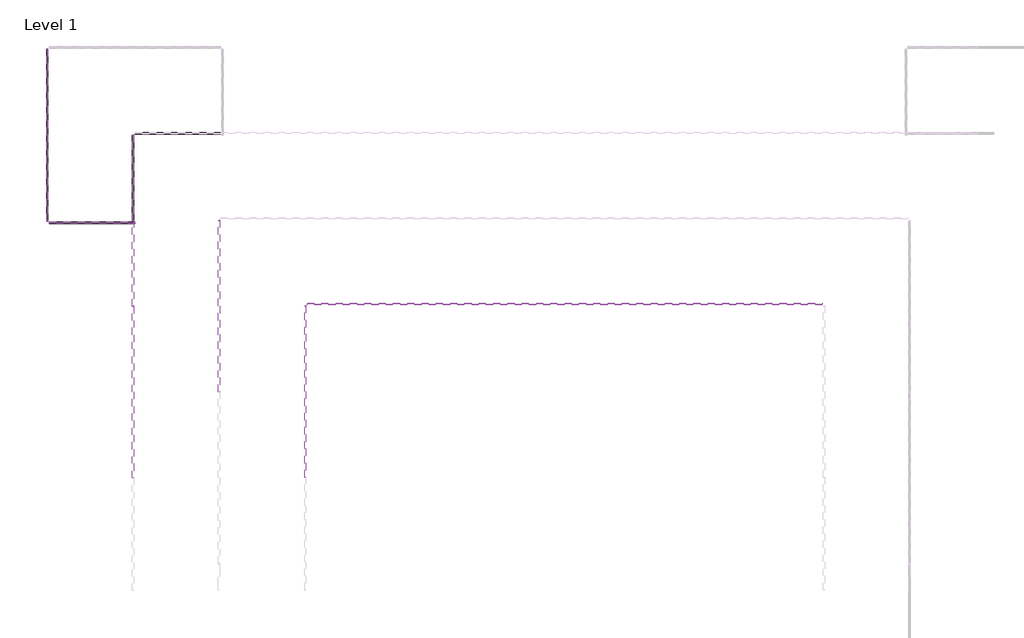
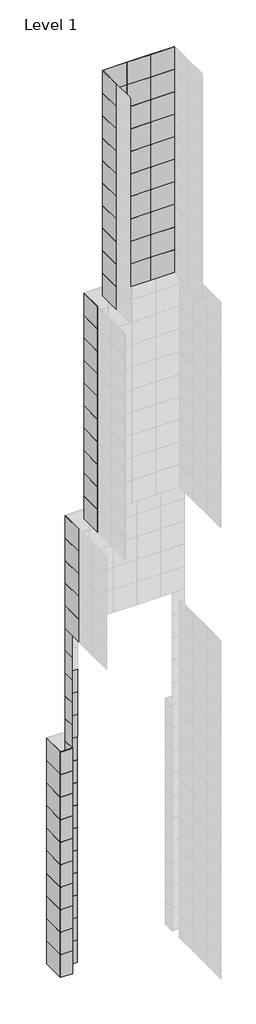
# One storey, part 12 of 15: 135 plates.
"""IFC4 building model written with IfcOpenShell, lengths in millimetres."""

from ifc_helpers import new_model, si_unit, origin, place, context, project, spatial, transform, mapped, element, save
from components import system_panel_glazed_9c75bc08, system_panel_glazed_0a0842ec, system_panel_glazed_aa64d645

model = new_model("IFC4")

# Units and contexts
model_context = context("Model", 3, world=origin())
ifc_project = project(units=[si_unit("LENGTHUNIT", "METRE", prefix="MILLI")], contexts=[model_context])

# Site, building, storey
site = spatial("IfcSite", under=ifc_project)
building = spatial("IfcBuilding", under=site)
storey = spatial("IfcBuildingStorey", under=building, Name="Level 1", Elevation=0.0)

# Plates
placement = place(None, origin())
system_panel_glazed_shape = system_panel_glazed_9c75bc08(model_context)
element("IfcPlate", 1, ObjectType="System Panel : Glazed", at=placement, inside=storey, context=model_context, shape_type="MappedRepresentation", body=[
    mapped(system_panel_glazed_shape, transform((36594.2903978, 9113.0904402, 0.0), x_axis=(0.0, -1.0, 0.0), y_axis=(1.0, 0.0, 0.0), z_axis=(0.0, 0.0, 1.0))),
])
element("IfcPlate", 2, ObjectType="System Panel : Glazed", at=placement, inside=storey, context=model_context, shape_type="MappedRepresentation", body=[
    mapped(system_panel_glazed_shape, transform((36594.2903978, 9113.0904402, 3048.0), x_axis=(0.0, -1.0, 0.0), y_axis=(1.0, 0.0, 0.0), z_axis=(0.0, 0.0, 1.0))),
])
element("IfcPlate", 3, ObjectType="System Panel : Glazed", at=placement, inside=storey, context=model_context, shape_type="MappedRepresentation", body=[
    mapped(system_panel_glazed_shape, transform((36594.2903978, 9113.0904402, 6096.0), x_axis=(0.0, -1.0, 0.0), y_axis=(1.0, 0.0, 0.0), z_axis=(0.0, 0.0, 1.0))),
])
element("IfcPlate", 4, ObjectType="System Panel : Glazed", at=placement, inside=storey, context=model_context, shape_type="MappedRepresentation", body=[
    mapped(system_panel_glazed_shape, transform((36594.2903978, 9113.0904402, 9144.0), x_axis=(0.0, -1.0, 0.0), y_axis=(1.0, 0.0, 0.0), z_axis=(0.0, 0.0, 1.0))),
])
element("IfcPlate", 5, ObjectType="System Panel : Glazed", at=placement, inside=storey, context=model_context, shape_type="MappedRepresentation", body=[
    mapped(system_panel_glazed_shape, transform((36594.2903978, 9113.0904402, 12192.0), x_axis=(0.0, -1.0, 0.0), y_axis=(1.0, 0.0, 0.0), z_axis=(0.0, 0.0, 1.0))),
])
element("IfcPlate", 6, ObjectType="System Panel : Glazed", at=placement, inside=storey, context=model_context, shape_type="MappedRepresentation", body=[
    mapped(system_panel_glazed_shape, transform((36594.2903978, 9113.0904402, 15240.0), x_axis=(0.0, -1.0, 0.0), y_axis=(1.0, 0.0, 0.0), z_axis=(0.0, 0.0, 1.0))),
])
element("IfcPlate", 7, ObjectType="System Panel : Glazed", at=placement, inside=storey, context=model_context, shape_type="MappedRepresentation", body=[
    mapped(system_panel_glazed_shape, transform((36594.2903978, 9113.0904402, 18288.0), x_axis=(0.0, -1.0, 0.0), y_axis=(1.0, 0.0, 0.0), z_axis=(0.0, 0.0, 1.0))),
])
element("IfcPlate", 8, ObjectType="System Panel : Glazed", at=placement, inside=storey, context=model_context, shape_type="MappedRepresentation", body=[
    mapped(system_panel_glazed_shape, transform((36594.2903978, 9113.0904402, 21336.0), x_axis=(0.0, -1.0, 0.0), y_axis=(1.0, 0.0, 0.0), z_axis=(0.0, 0.0, 1.0))),
])
element("IfcPlate", 9, ObjectType="System Panel : Glazed", at=placement, inside=storey, context=model_context, shape_type="MappedRepresentation", body=[
    mapped(system_panel_glazed_shape, transform((36594.2903978, 9113.0904402, 24384.0), x_axis=(0.0, -1.0, 0.0), y_axis=(1.0, 0.0, 0.0), z_axis=(0.0, 0.0, 1.0))),
])
element("IfcPlate", 10, ObjectType="System Panel : Glazed", at=placement, inside=storey, context=model_context, shape_type="MappedRepresentation", body=[
    mapped(system_panel_glazed_shape, transform((36594.2903978, 9113.0904402, 27432.0), x_axis=(0.0, -1.0, 0.0), y_axis=(1.0, 0.0, 0.0), z_axis=(0.0, 0.0, 1.0))),
])
element("IfcPlate", 11, ObjectType="System Panel : Glazed", at=placement, inside=storey, context=model_context, shape_type="MappedRepresentation", body=[
    mapped(system_panel_glazed_shape, transform((36594.2903978, 9113.0904402, 30480.0), x_axis=(0.0, -1.0, 0.0), y_axis=(1.0, 0.0, 0.0), z_axis=(0.0, 0.0, 1.0))),
])
element("IfcPlate", 12, ObjectType="System Panel : Glazed", at=placement, inside=storey, context=model_context, shape_type="MappedRepresentation", body=[
    mapped(system_panel_glazed_shape, transform((36594.2903978, 9113.0904402, 33528.0), x_axis=(0.0, -1.0, 0.0), y_axis=(1.0, 0.0, 0.0), z_axis=(0.0, 0.0, 1.0))),
])
element("IfcPlate", 13, ObjectType="System Panel : Glazed", at=placement, inside=storey, context=model_context, shape_type="MappedRepresentation", body=[
    mapped(system_panel_glazed_shape, transform((36594.2903978, 9113.0904402, 36576.0), x_axis=(0.0, -1.0, 0.0), y_axis=(1.0, 0.0, 0.0), z_axis=(0.0, 0.0, 1.0))),
])
element("IfcPlate", 14, ObjectType="System Panel : Glazed", at=placement, inside=storey, context=model_context, shape_type="MappedRepresentation", body=[
    mapped(system_panel_glazed_shape, transform((36594.2903978, 9113.0904402, 39624.0), x_axis=(0.0, -1.0, 0.0), y_axis=(1.0, 0.0, 0.0), z_axis=(0.0, 0.0, 1.0))),
])
element("IfcPlate", 15, ObjectType="System Panel : Glazed", at=placement, inside=storey, context=model_context, shape_type="MappedRepresentation", body=[
    mapped(system_panel_glazed_shape, transform((36594.2903978, 9113.0904402, 42672.0), x_axis=(0.0, -1.0, 0.0), y_axis=(1.0, 0.0, 0.0), z_axis=(0.0, 0.0, 1.0))),
])
element("IfcPlate", 16, ObjectType="System Panel : Glazed", at=placement, inside=storey, context=model_context, shape_type="MappedRepresentation", body=[
    mapped(system_panel_glazed_shape, transform((37356.2903978, 9875.0904402, 0.0), x_axis=(-1.0, 0.0, 0.0), y_axis=(0.0, -1.0, 0.0), z_axis=(0.0, 0.0, 1.0))),
])
element("IfcPlate", 17, ObjectType="System Panel : Glazed", at=placement, inside=storey, context=model_context, shape_type="MappedRepresentation", body=[
    mapped(system_panel_glazed_shape, transform((37356.2903978, 9875.0904402, 3048.0), x_axis=(-1.0, 0.0, 0.0), y_axis=(0.0, -1.0, 0.0), z_axis=(0.0, 0.0, 1.0))),
])
element("IfcPlate", 18, ObjectType="System Panel : Glazed", at=placement, inside=storey, context=model_context, shape_type="MappedRepresentation", body=[
    mapped(system_panel_glazed_shape, transform((37356.2903978, 9875.0904402, 6096.0), x_axis=(-1.0, 0.0, 0.0), y_axis=(0.0, -1.0, 0.0), z_axis=(0.0, 0.0, 1.0))),
])
element("IfcPlate", 19, ObjectType="System Panel : Glazed", at=placement, inside=storey, context=model_context, shape_type="MappedRepresentation", body=[
    mapped(system_panel_glazed_shape, transform((37356.2903978, 9875.0904402, 9144.0), x_axis=(-1.0, 0.0, 0.0), y_axis=(0.0, -1.0, 0.0), z_axis=(0.0, 0.0, 1.0))),
])
element("IfcPlate", 20, ObjectType="System Panel : Glazed", at=placement, inside=storey, context=model_context, shape_type="MappedRepresentation", body=[
    mapped(system_panel_glazed_shape, transform((37356.2903978, 9875.0904402, 12192.0), x_axis=(-1.0, 0.0, 0.0), y_axis=(0.0, -1.0, 0.0), z_axis=(0.0, 0.0, 1.0))),
])
element("IfcPlate", 21, ObjectType="System Panel : Glazed", at=placement, inside=storey, context=model_context, shape_type="MappedRepresentation", body=[
    mapped(system_panel_glazed_shape, transform((37356.2903978, 9875.0904402, 15240.0), x_axis=(-1.0, 0.0, 0.0), y_axis=(0.0, -1.0, 0.0), z_axis=(0.0, 0.0, 1.0))),
])
element("IfcPlate", 22, ObjectType="System Panel : Glazed", at=placement, inside=storey, context=model_context, shape_type="MappedRepresentation", body=[
    mapped(system_panel_glazed_shape, transform((37356.2903978, 9875.0904402, 18288.0), x_axis=(-1.0, 0.0, 0.0), y_axis=(0.0, -1.0, 0.0), z_axis=(0.0, 0.0, 1.0))),
])
element("IfcPlate", 23, ObjectType="System Panel : Glazed", at=placement, inside=storey, context=model_context, shape_type="MappedRepresentation", body=[
    mapped(system_panel_glazed_shape, transform((37356.2903978, 9875.0904402, 21336.0), x_axis=(-1.0, 0.0, 0.0), y_axis=(0.0, -1.0, 0.0), z_axis=(0.0, 0.0, 1.0))),
])
element("IfcPlate", 24, ObjectType="System Panel : Glazed", at=placement, inside=storey, context=model_context, shape_type="MappedRepresentation", body=[
    mapped(system_panel_glazed_shape, transform((37356.2903978, 9875.0904402, 24384.0), x_axis=(-1.0, 0.0, 0.0), y_axis=(0.0, -1.0, 0.0), z_axis=(0.0, 0.0, 1.0))),
])
element("IfcPlate", 25, ObjectType="System Panel : Glazed", at=placement, inside=storey, context=model_context, shape_type="MappedRepresentation", body=[
    mapped(system_panel_glazed_shape, transform((37356.2903978, 9875.0904402, 27432.0), x_axis=(-1.0, 0.0, 0.0), y_axis=(0.0, -1.0, 0.0), z_axis=(0.0, 0.0, 1.0))),
])
element("IfcPlate", 26, ObjectType="System Panel : Glazed", at=placement, inside=storey, context=model_context, shape_type="MappedRepresentation", body=[
    mapped(system_panel_glazed_shape, transform((37356.2903978, 9875.0904402, 30480.0), x_axis=(-1.0, 0.0, 0.0), y_axis=(0.0, -1.0, 0.0), z_axis=(0.0, 0.0, 1.0))),
])
element("IfcPlate", 27, ObjectType="System Panel : Glazed", at=placement, inside=storey, context=model_context, shape_type="MappedRepresentation", body=[
    mapped(system_panel_glazed_shape, transform((37356.2903978, 9875.0904402, 33528.0), x_axis=(-1.0, 0.0, 0.0), y_axis=(0.0, -1.0, 0.0), z_axis=(0.0, 0.0, 1.0))),
])
element("IfcPlate", 28, ObjectType="System Panel : Glazed", at=placement, inside=storey, context=model_context, shape_type="MappedRepresentation", body=[
    mapped(system_panel_glazed_shape, transform((37356.2903978, 9875.0904402, 36576.0), x_axis=(-1.0, 0.0, 0.0), y_axis=(0.0, -1.0, 0.0), z_axis=(0.0, 0.0, 1.0))),
])
element("IfcPlate", 29, ObjectType="System Panel : Glazed", at=placement, inside=storey, context=model_context, shape_type="MappedRepresentation", body=[
    mapped(system_panel_glazed_shape, transform((36594.2903978, 9113.0904402, 0.0), x_axis=(0.0, -1.0, 0.0), y_axis=(1.0, 0.0, 0.0), z_axis=(0.0, 0.0, 1.0))),
])
element("IfcPlate", 30, ObjectType="System Panel : Glazed", at=placement, inside=storey, context=model_context, shape_type="MappedRepresentation", body=[
    mapped(system_panel_glazed_shape, transform((36594.2903978, 9113.0904402, 3048.0), x_axis=(0.0, -1.0, 0.0), y_axis=(1.0, 0.0, 0.0), z_axis=(0.0, 0.0, 1.0))),
])
element("IfcPlate", 31, ObjectType="System Panel : Glazed", at=placement, inside=storey, context=model_context, shape_type="MappedRepresentation", body=[
    mapped(system_panel_glazed_shape, transform((36594.2903978, 9113.0904402, 6096.0), x_axis=(0.0, -1.0, 0.0), y_axis=(1.0, 0.0, 0.0), z_axis=(0.0, 0.0, 1.0))),
])
element("IfcPlate", 32, ObjectType="System Panel : Glazed", at=placement, inside=storey, context=model_context, shape_type="MappedRepresentation", body=[
    mapped(system_panel_glazed_shape, transform((36594.2903978, 9113.0904402, 9144.0), x_axis=(0.0, -1.0, 0.0), y_axis=(1.0, 0.0, 0.0), z_axis=(0.0, 0.0, 1.0))),
])
element("IfcPlate", 33, ObjectType="System Panel : Glazed", at=placement, inside=storey, context=model_context, shape_type="MappedRepresentation", body=[
    mapped(system_panel_glazed_shape, transform((36594.2903978, 9113.0904402, 12192.0), x_axis=(0.0, -1.0, 0.0), y_axis=(1.0, 0.0, 0.0), z_axis=(0.0, 0.0, 1.0))),
])
element("IfcPlate", 34, ObjectType="System Panel : Glazed", at=placement, inside=storey, context=model_context, shape_type="MappedRepresentation", body=[
    mapped(system_panel_glazed_shape, transform((36594.2903978, 9113.0904402, 15240.0), x_axis=(0.0, -1.0, 0.0), y_axis=(1.0, 0.0, 0.0), z_axis=(0.0, 0.0, 1.0))),
])
element("IfcPlate", 35, ObjectType="System Panel : Glazed", at=placement, inside=storey, context=model_context, shape_type="MappedRepresentation", body=[
    mapped(system_panel_glazed_shape, transform((36594.2903978, 9113.0904402, 18288.0), x_axis=(0.0, -1.0, 0.0), y_axis=(1.0, 0.0, 0.0), z_axis=(0.0, 0.0, 1.0))),
])
element("IfcPlate", 36, ObjectType="System Panel : Glazed", at=placement, inside=storey, context=model_context, shape_type="MappedRepresentation", body=[
    mapped(system_panel_glazed_shape, transform((36594.2903978, 9113.0904402, 21336.0), x_axis=(0.0, -1.0, 0.0), y_axis=(1.0, 0.0, 0.0), z_axis=(0.0, 0.0, 1.0))),
])
element("IfcPlate", 37, ObjectType="System Panel : Glazed", at=placement, inside=storey, context=model_context, shape_type="MappedRepresentation", body=[
    mapped(system_panel_glazed_shape, transform((36594.2903978, 9113.0904402, 24384.0), x_axis=(0.0, -1.0, 0.0), y_axis=(1.0, 0.0, 0.0), z_axis=(0.0, 0.0, 1.0))),
])
element("IfcPlate", 38, ObjectType="System Panel : Glazed", at=placement, inside=storey, context=model_context, shape_type="MappedRepresentation", body=[
    mapped(system_panel_glazed_shape, transform((36594.2903978, 9113.0904402, 27432.0), x_axis=(0.0, -1.0, 0.0), y_axis=(1.0, 0.0, 0.0), z_axis=(0.0, 0.0, 1.0))),
])
element("IfcPlate", 39, ObjectType="System Panel : Glazed", at=placement, inside=storey, context=model_context, shape_type="MappedRepresentation", body=[
    mapped(system_panel_glazed_shape, transform((36594.2903978, 9113.0904402, 30480.0), x_axis=(0.0, -1.0, 0.0), y_axis=(1.0, 0.0, 0.0), z_axis=(0.0, 0.0, 1.0))),
])
element("IfcPlate", 40, ObjectType="System Panel : Glazed", at=placement, inside=storey, context=model_context, shape_type="MappedRepresentation", body=[
    mapped(system_panel_glazed_shape, transform((36594.2903978, 9113.0904402, 33528.0), x_axis=(0.0, -1.0, 0.0), y_axis=(1.0, 0.0, 0.0), z_axis=(0.0, 0.0, 1.0))),
])
element("IfcPlate", 41, ObjectType="System Panel : Glazed", at=placement, inside=storey, context=model_context, shape_type="MappedRepresentation", body=[
    mapped(system_panel_glazed_shape, transform((36594.2903978, 9113.0904402, 36576.0), x_axis=(0.0, -1.0, 0.0), y_axis=(1.0, 0.0, 0.0), z_axis=(0.0, 0.0, 1.0))),
])
element("IfcPlate", 42, ObjectType="System Panel : Glazed", at=placement, inside=storey, context=model_context, shape_type="MappedRepresentation", body=[
    mapped(system_panel_glazed_shape, transform((36594.2903978, 9113.0904402, 39624.0), x_axis=(0.0, -1.0, 0.0), y_axis=(1.0, 0.0, 0.0), z_axis=(0.0, 0.0, 1.0))),
])
element("IfcPlate", 43, ObjectType="System Panel : Glazed", at=placement, inside=storey, context=model_context, shape_type="MappedRepresentation", body=[
    mapped(system_panel_glazed_shape, transform((36594.2903978, 9113.0904402, 42672.0), x_axis=(0.0, -1.0, 0.0), y_axis=(1.0, 0.0, 0.0), z_axis=(0.0, 0.0, 1.0))),
])
element("IfcPlate", 44, ObjectType="System Panel : Glazed", at=placement, inside=storey, context=model_context, shape_type="MappedRepresentation", body=[
    mapped(system_panel_glazed_shape, transform((35832.2903978, 8351.0904402, 0.0), x_axis=(1.0, 0.0, 0.0), y_axis=(0.0, 1.0, 0.0), z_axis=(0.0, 0.0, 1.0))),
])
element("IfcPlate", 45, ObjectType="System Panel : Glazed", at=placement, inside=storey, context=model_context, shape_type="MappedRepresentation", body=[
    mapped(system_panel_glazed_shape, transform((35832.2903978, 8351.0904402, 3048.0), x_axis=(1.0, 0.0, 0.0), y_axis=(0.0, 1.0, 0.0), z_axis=(0.0, 0.0, 1.0))),
])
element("IfcPlate", 46, ObjectType="System Panel : Glazed", at=placement, inside=storey, context=model_context, shape_type="MappedRepresentation", body=[
    mapped(system_panel_glazed_shape, transform((35832.2903978, 8351.0904402, 6096.0), x_axis=(1.0, 0.0, 0.0), y_axis=(0.0, 1.0, 0.0), z_axis=(0.0, 0.0, 1.0))),
])
element("IfcPlate", 47, ObjectType="System Panel : Glazed", at=placement, inside=storey, context=model_context, shape_type="MappedRepresentation", body=[
    mapped(system_panel_glazed_shape, transform((35832.2903978, 8351.0904402, 9144.0), x_axis=(1.0, 0.0, 0.0), y_axis=(0.0, 1.0, 0.0), z_axis=(0.0, 0.0, 1.0))),
])
element("IfcPlate", 48, ObjectType="System Panel : Glazed", at=placement, inside=storey, context=model_context, shape_type="MappedRepresentation", body=[
    mapped(system_panel_glazed_shape, transform((35832.2903978, 8351.0904402, 12192.0), x_axis=(1.0, 0.0, 0.0), y_axis=(0.0, 1.0, 0.0), z_axis=(0.0, 0.0, 1.0))),
])
element("IfcPlate", 49, ObjectType="System Panel : Glazed", at=placement, inside=storey, context=model_context, shape_type="MappedRepresentation", body=[
    mapped(system_panel_glazed_shape, transform((35832.2903978, 8351.0904402, 15240.0), x_axis=(1.0, 0.0, 0.0), y_axis=(0.0, 1.0, 0.0), z_axis=(0.0, 0.0, 1.0))),
])
element("IfcPlate", 50, ObjectType="System Panel : Glazed", at=placement, inside=storey, context=model_context, shape_type="MappedRepresentation", body=[
    mapped(system_panel_glazed_shape, transform((35832.2903978, 8351.0904402, 18288.0), x_axis=(1.0, 0.0, 0.0), y_axis=(0.0, 1.0, 0.0), z_axis=(0.0, 0.0, 1.0))),
])
element("IfcPlate", 51, ObjectType="System Panel : Glazed", at=placement, inside=storey, context=model_context, shape_type="MappedRepresentation", body=[
    mapped(system_panel_glazed_shape, transform((35832.2903978, 8351.0904402, 21336.0), x_axis=(1.0, 0.0, 0.0), y_axis=(0.0, 1.0, 0.0), z_axis=(0.0, 0.0, 1.0))),
])
element("IfcPlate", 52, ObjectType="System Panel : Glazed", at=placement, inside=storey, context=model_context, shape_type="MappedRepresentation", body=[
    mapped(system_panel_glazed_shape, transform((35832.2903978, 8351.0904402, 24384.0), x_axis=(1.0, 0.0, 0.0), y_axis=(0.0, 1.0, 0.0), z_axis=(0.0, 0.0, 1.0))),
])
element("IfcPlate", 53, ObjectType="System Panel : Glazed", at=placement, inside=storey, context=model_context, shape_type="MappedRepresentation", body=[
    mapped(system_panel_glazed_shape, transform((35832.2903978, 8351.0904402, 27432.0), x_axis=(1.0, 0.0, 0.0), y_axis=(0.0, 1.0, 0.0), z_axis=(0.0, 0.0, 1.0))),
])
system_panel_glazed_2_shape = system_panel_glazed_0a0842ec(model_context)
element("IfcPlate", 54, ObjectType="System Panel : Glazed", at=placement, inside=storey, context=model_context, shape_type="MappedRepresentation", body=[
    mapped(system_panel_glazed_2_shape, transform((36594.2903978, 8351.0904402, 45720.0), x_axis=(0.0, -1.0, 0.0), y_axis=(1.0, 0.0, 0.0), z_axis=(0.0, 0.0, 1.0))),
])
element("IfcPlate", 55, ObjectType="System Panel : Glazed", at=placement, inside=storey, context=model_context, shape_type="MappedRepresentation", body=[
    mapped(system_panel_glazed_2_shape, transform((36594.2903978, 8351.0904402, 45720.0), x_axis=(0.0, -1.0, 0.0), y_axis=(1.0, 0.0, 0.0), z_axis=(0.0, 0.0, 1.0))),
])
system_panel_glazed_3_shape = system_panel_glazed_aa64d645(model_context)
element("IfcPlate", 56, ObjectType="System Panel : Glazed", at=placement, inside=storey, context=model_context, shape_type="MappedRepresentation", body=[
    mapped(system_panel_glazed_3_shape, transform((36594.2903978, 8351.0904402, 48768.0), x_axis=(0.0, -1.0, 0.0), y_axis=(1.0, 0.0, 0.0), z_axis=(0.0, 0.0, 1.0))),
])
element("IfcPlate", 57, ObjectType="System Panel : Glazed", at=placement, inside=storey, context=model_context, shape_type="MappedRepresentation", body=[
    mapped(system_panel_glazed_3_shape, transform((36594.2903978, 8351.0904402, 51816.0), x_axis=(0.0, -1.0, 0.0), y_axis=(1.0, 0.0, 0.0), z_axis=(0.0, 0.0, 1.0))),
])
element("IfcPlate", 58, ObjectType="System Panel : Glazed", at=placement, inside=storey, context=model_context, shape_type="MappedRepresentation", body=[
    mapped(system_panel_glazed_3_shape, transform((36594.2903978, 8351.0904402, 54864.0), x_axis=(0.0, -1.0, 0.0), y_axis=(1.0, 0.0, 0.0), z_axis=(0.0, 0.0, 1.0))),
])
element("IfcPlate", 59, ObjectType="System Panel : Glazed", at=placement, inside=storey, context=model_context, shape_type="MappedRepresentation", body=[
    mapped(system_panel_glazed_3_shape, transform((36594.2903978, 8351.0904402, 57912.0), x_axis=(0.0, -1.0, 0.0), y_axis=(1.0, 0.0, 0.0), z_axis=(0.0, 0.0, 1.0))),
])
element("IfcPlate", 60, ObjectType="System Panel : Glazed", at=placement, inside=storey, context=model_context, shape_type="MappedRepresentation", body=[
    mapped(system_panel_glazed_3_shape, transform((38118.2903978, 6827.0904402, 60960.0), x_axis=(0.0, -1.0, 0.0), y_axis=(1.0, 0.0, 0.0), z_axis=(0.0, 0.0, 1.0))),
])
element("IfcPlate", 61, ObjectType="System Panel : Glazed", at=placement, inside=storey, context=model_context, shape_type="MappedRepresentation", body=[
    mapped(system_panel_glazed_3_shape, transform((38118.2903978, 6827.0904402, 64008.0), x_axis=(0.0, -1.0, 0.0), y_axis=(1.0, 0.0, 0.0), z_axis=(0.0, 0.0, 1.0))),
])
element("IfcPlate", 62, ObjectType="System Panel : Glazed", at=placement, inside=storey, context=model_context, shape_type="MappedRepresentation", body=[
    mapped(system_panel_glazed_3_shape, transform((38118.2903978, 6827.0904402, 67056.0), x_axis=(0.0, -1.0, 0.0), y_axis=(1.0, 0.0, 0.0), z_axis=(0.0, 0.0, 1.0))),
])
element("IfcPlate", 63, ObjectType="System Panel : Glazed", at=placement, inside=storey, context=model_context, shape_type="MappedRepresentation", body=[
    mapped(system_panel_glazed_3_shape, transform((38118.2903978, 6827.0904402, 70104.0), x_axis=(0.0, -1.0, 0.0), y_axis=(1.0, 0.0, 0.0), z_axis=(0.0, 0.0, 1.0))),
])
element("IfcPlate", 64, ObjectType="System Panel : Glazed", at=placement, inside=storey, context=model_context, shape_type="MappedRepresentation", body=[
    mapped(system_panel_glazed_3_shape, transform((38118.2903978, 6827.0904402, 73152.0), x_axis=(0.0, -1.0, 0.0), y_axis=(1.0, 0.0, 0.0), z_axis=(0.0, 0.0, 1.0))),
])
element("IfcPlate", 65, ObjectType="System Panel : Glazed", at=placement, inside=storey, context=model_context, shape_type="MappedRepresentation", body=[
    mapped(system_panel_glazed_3_shape, transform((38118.2903978, 6827.0904402, 76200.0), x_axis=(0.0, -1.0, 0.0), y_axis=(1.0, 0.0, 0.0), z_axis=(0.0, 0.0, 1.0))),
])
element("IfcPlate", 66, ObjectType="System Panel : Glazed", at=placement, inside=storey, context=model_context, shape_type="MappedRepresentation", body=[
    mapped(system_panel_glazed_3_shape, transform((38118.2903978, 6827.0904402, 79248.0), x_axis=(0.0, -1.0, 0.0), y_axis=(1.0, 0.0, 0.0), z_axis=(0.0, 0.0, 1.0))),
])
element("IfcPlate", 67, ObjectType="System Panel : Glazed", at=placement, inside=storey, context=model_context, shape_type="MappedRepresentation", body=[
    mapped(system_panel_glazed_3_shape, transform((38118.2903978, 6827.0904402, 82296.0), x_axis=(0.0, -1.0, 0.0), y_axis=(1.0, 0.0, 0.0), z_axis=(0.0, 0.0, 1.0))),
])
element("IfcPlate", 68, ObjectType="System Panel : Glazed", at=placement, inside=storey, context=model_context, shape_type="MappedRepresentation", body=[
    mapped(system_panel_glazed_3_shape, transform((38118.2903978, 6827.0904402, 85344.0), x_axis=(0.0, -1.0, 0.0), y_axis=(1.0, 0.0, 0.0), z_axis=(0.0, 0.0, 1.0))),
])
element("IfcPlate", 69, ObjectType="System Panel : Glazed", at=placement, inside=storey, context=model_context, shape_type="MappedRepresentation", body=[
    mapped(system_panel_glazed_3_shape, transform((38118.2903978, 6827.0904402, 88392.0), x_axis=(0.0, -1.0, 0.0), y_axis=(1.0, 0.0, 0.0), z_axis=(0.0, 0.0, 1.0))),
])
element("IfcPlate", 70, ObjectType="System Panel : Glazed", at=placement, inside=storey, context=model_context, shape_type="MappedRepresentation", body=[
    mapped(system_panel_glazed_3_shape, transform((47267.8576677, 6827.0904402, 91440.0), x_axis=(-1.0, 0.0, 0.0), y_axis=(0.0, -1.0, 0.0), z_axis=(0.0, 0.0, 1.0))),
])
element("IfcPlate", 71, ObjectType="System Panel : Glazed", at=placement, inside=storey, context=model_context, shape_type="MappedRepresentation", body=[
    mapped(system_panel_glazed_3_shape, transform((44219.8576677, 6827.0904402, 91440.0), x_axis=(-1.0, 0.0, 0.0), y_axis=(0.0, -1.0, 0.0), z_axis=(0.0, 0.0, 1.0))),
])
element("IfcPlate", 72, ObjectType="System Panel : Glazed", at=placement, inside=storey, context=model_context, shape_type="MappedRepresentation", body=[
    mapped(system_panel_glazed_3_shape, transform((41171.8576677, 6827.0904402, 91440.0), x_axis=(-1.0, 0.0, 0.0), y_axis=(0.0, -1.0, 0.0), z_axis=(0.0, 0.0, 1.0))),
])
element("IfcPlate", 73, ObjectType="System Panel : Glazed", at=placement, inside=storey, context=model_context, shape_type="MappedRepresentation", body=[
    mapped(system_panel_glazed_3_shape, transform((47267.8576677, 6827.0904402, 94488.0), x_axis=(-1.0, 0.0, 0.0), y_axis=(0.0, -1.0, 0.0), z_axis=(0.0, 0.0, 1.0))),
])
element("IfcPlate", 74, ObjectType="System Panel : Glazed", at=placement, inside=storey, context=model_context, shape_type="MappedRepresentation", body=[
    mapped(system_panel_glazed_3_shape, transform((44219.8576677, 6827.0904402, 94488.0), x_axis=(-1.0, 0.0, 0.0), y_axis=(0.0, -1.0, 0.0), z_axis=(0.0, 0.0, 1.0))),
])
element("IfcPlate", 75, ObjectType="System Panel : Glazed", at=placement, inside=storey, context=model_context, shape_type="MappedRepresentation", body=[
    mapped(system_panel_glazed_3_shape, transform((41171.8576677, 6827.0904402, 94488.0), x_axis=(-1.0, 0.0, 0.0), y_axis=(0.0, -1.0, 0.0), z_axis=(0.0, 0.0, 1.0))),
])
element("IfcPlate", 76, ObjectType="System Panel : Glazed", at=placement, inside=storey, context=model_context, shape_type="MappedRepresentation", body=[
    mapped(system_panel_glazed_3_shape, transform((47267.8576677, 6827.0904402, 97536.0), x_axis=(-1.0, 0.0, 0.0), y_axis=(0.0, -1.0, 0.0), z_axis=(0.0, 0.0, 1.0))),
])
element("IfcPlate", 77, ObjectType="System Panel : Glazed", at=placement, inside=storey, context=model_context, shape_type="MappedRepresentation", body=[
    mapped(system_panel_glazed_3_shape, transform((44219.8576677, 6827.0904402, 97536.0), x_axis=(-1.0, 0.0, 0.0), y_axis=(0.0, -1.0, 0.0), z_axis=(0.0, 0.0, 1.0))),
])
element("IfcPlate", 78, ObjectType="System Panel : Glazed", at=placement, inside=storey, context=model_context, shape_type="MappedRepresentation", body=[
    mapped(system_panel_glazed_3_shape, transform((41171.8576677, 6827.0904402, 97536.0), x_axis=(-1.0, 0.0, 0.0), y_axis=(0.0, -1.0, 0.0), z_axis=(0.0, 0.0, 1.0))),
])
element("IfcPlate", 79, ObjectType="System Panel : Glazed", at=placement, inside=storey, context=model_context, shape_type="MappedRepresentation", body=[
    mapped(system_panel_glazed_3_shape, transform((47267.8576677, 6827.0904402, 100584.0), x_axis=(-1.0, 0.0, 0.0), y_axis=(0.0, -1.0, 0.0), z_axis=(0.0, 0.0, 1.0))),
])
element("IfcPlate", 80, ObjectType="System Panel : Glazed", at=placement, inside=storey, context=model_context, shape_type="MappedRepresentation", body=[
    mapped(system_panel_glazed_3_shape, transform((44219.8576677, 6827.0904402, 100584.0), x_axis=(-1.0, 0.0, 0.0), y_axis=(0.0, -1.0, 0.0), z_axis=(0.0, 0.0, 1.0))),
])
element("IfcPlate", 81, ObjectType="System Panel : Glazed", at=placement, inside=storey, context=model_context, shape_type="MappedRepresentation", body=[
    mapped(system_panel_glazed_3_shape, transform((41171.8576677, 6827.0904402, 100584.0), x_axis=(-1.0, 0.0, 0.0), y_axis=(0.0, -1.0, 0.0), z_axis=(0.0, 0.0, 1.0))),
])
element("IfcPlate", 82, ObjectType="System Panel : Glazed", at=placement, inside=storey, context=model_context, shape_type="MappedRepresentation", body=[
    mapped(system_panel_glazed_3_shape, transform((47267.8576677, 6827.0904402, 103632.0), x_axis=(-1.0, 0.0, 0.0), y_axis=(0.0, -1.0, 0.0), z_axis=(0.0, 0.0, 1.0))),
])
element("IfcPlate", 83, ObjectType="System Panel : Glazed", at=placement, inside=storey, context=model_context, shape_type="MappedRepresentation", body=[
    mapped(system_panel_glazed_3_shape, transform((44219.8576677, 6827.0904402, 103632.0), x_axis=(-1.0, 0.0, 0.0), y_axis=(0.0, -1.0, 0.0), z_axis=(0.0, 0.0, 1.0))),
])
element("IfcPlate", 84, ObjectType="System Panel : Glazed", at=placement, inside=storey, context=model_context, shape_type="MappedRepresentation", body=[
    mapped(system_panel_glazed_3_shape, transform((41171.8576677, 6827.0904402, 103632.0), x_axis=(-1.0, 0.0, 0.0), y_axis=(0.0, -1.0, 0.0), z_axis=(0.0, 0.0, 1.0))),
])
element("IfcPlate", 85, ObjectType="System Panel : Glazed", at=placement, inside=storey, context=model_context, shape_type="MappedRepresentation", body=[
    mapped(system_panel_glazed_3_shape, transform((47267.8576677, 6827.0904402, 106680.0), x_axis=(-1.0, 0.0, 0.0), y_axis=(0.0, -1.0, 0.0), z_axis=(0.0, 0.0, 1.0))),
])
element("IfcPlate", 86, ObjectType="System Panel : Glazed", at=placement, inside=storey, context=model_context, shape_type="MappedRepresentation", body=[
    mapped(system_panel_glazed_3_shape, transform((44219.8576677, 6827.0904402, 106680.0), x_axis=(-1.0, 0.0, 0.0), y_axis=(0.0, -1.0, 0.0), z_axis=(0.0, 0.0, 1.0))),
])
element("IfcPlate", 87, ObjectType="System Panel : Glazed", at=placement, inside=storey, context=model_context, shape_type="MappedRepresentation", body=[
    mapped(system_panel_glazed_3_shape, transform((41171.8576677, 6827.0904402, 106680.0), x_axis=(-1.0, 0.0, 0.0), y_axis=(0.0, -1.0, 0.0), z_axis=(0.0, 0.0, 1.0))),
])
element("IfcPlate", 88, ObjectType="System Panel : Glazed", at=placement, inside=storey, context=model_context, shape_type="MappedRepresentation", body=[
    mapped(system_panel_glazed_3_shape, transform((47267.8576677, 6827.0904402, 109728.0), x_axis=(-1.0, 0.0, 0.0), y_axis=(0.0, -1.0, 0.0), z_axis=(0.0, 0.0, 1.0))),
])
element("IfcPlate", 89, ObjectType="System Panel : Glazed", at=placement, inside=storey, context=model_context, shape_type="MappedRepresentation", body=[
    mapped(system_panel_glazed_3_shape, transform((44219.8576677, 6827.0904402, 109728.0), x_axis=(-1.0, 0.0, 0.0), y_axis=(0.0, -1.0, 0.0), z_axis=(0.0, 0.0, 1.0))),
])
element("IfcPlate", 90, ObjectType="System Panel : Glazed", at=placement, inside=storey, context=model_context, shape_type="MappedRepresentation", body=[
    mapped(system_panel_glazed_3_shape, transform((41171.8576677, 6827.0904402, 109728.0), x_axis=(-1.0, 0.0, 0.0), y_axis=(0.0, -1.0, 0.0), z_axis=(0.0, 0.0, 1.0))),
])
element("IfcPlate", 91, ObjectType="System Panel : Glazed", at=placement, inside=storey, context=model_context, shape_type="MappedRepresentation", body=[
    mapped(system_panel_glazed_3_shape, transform((47267.8576677, 6827.0904402, 112776.0), x_axis=(-1.0, 0.0, 0.0), y_axis=(0.0, -1.0, 0.0), z_axis=(0.0, 0.0, 1.0))),
])
element("IfcPlate", 92, ObjectType="System Panel : Glazed", at=placement, inside=storey, context=model_context, shape_type="MappedRepresentation", body=[
    mapped(system_panel_glazed_3_shape, transform((44219.8576677, 6827.0904402, 112776.0), x_axis=(-1.0, 0.0, 0.0), y_axis=(0.0, -1.0, 0.0), z_axis=(0.0, 0.0, 1.0))),
])
element("IfcPlate", 93, ObjectType="System Panel : Glazed", at=placement, inside=storey, context=model_context, shape_type="MappedRepresentation", body=[
    mapped(system_panel_glazed_3_shape, transform((41171.8576677, 6827.0904402, 112776.0), x_axis=(-1.0, 0.0, 0.0), y_axis=(0.0, -1.0, 0.0), z_axis=(0.0, 0.0, 1.0))),
])
element("IfcPlate", 94, ObjectType="System Panel : Glazed", at=placement, inside=storey, context=model_context, shape_type="MappedRepresentation", body=[
    mapped(system_panel_glazed_3_shape, transform((47267.8576677, 6827.0904402, 115824.0), x_axis=(-1.0, 0.0, 0.0), y_axis=(0.0, -1.0, 0.0), z_axis=(0.0, 0.0, 1.0))),
])
element("IfcPlate", 95, ObjectType="System Panel : Glazed", at=placement, inside=storey, context=model_context, shape_type="MappedRepresentation", body=[
    mapped(system_panel_glazed_3_shape, transform((44219.8576677, 6827.0904402, 115824.0), x_axis=(-1.0, 0.0, 0.0), y_axis=(0.0, -1.0, 0.0), z_axis=(0.0, 0.0, 1.0))),
])
element("IfcPlate", 96, ObjectType="System Panel : Glazed", at=placement, inside=storey, context=model_context, shape_type="MappedRepresentation", body=[
    mapped(system_panel_glazed_3_shape, transform((41171.8576677, 6827.0904402, 115824.0), x_axis=(-1.0, 0.0, 0.0), y_axis=(0.0, -1.0, 0.0), z_axis=(0.0, 0.0, 1.0))),
])
element("IfcPlate", 97, ObjectType="System Panel : Glazed", at=placement, inside=storey, context=model_context, shape_type="MappedRepresentation", body=[
    mapped(system_panel_glazed_3_shape, transform((47267.8576677, 6827.0904402, 118872.0), x_axis=(-1.0, 0.0, 0.0), y_axis=(0.0, -1.0, 0.0), z_axis=(0.0, 0.0, 1.0))),
])
element("IfcPlate", 98, ObjectType="System Panel : Glazed", at=placement, inside=storey, context=model_context, shape_type="MappedRepresentation", body=[
    mapped(system_panel_glazed_3_shape, transform((44219.8576677, 6827.0904402, 118872.0), x_axis=(-1.0, 0.0, 0.0), y_axis=(0.0, -1.0, 0.0), z_axis=(0.0, 0.0, 1.0))),
])
element("IfcPlate", 99, ObjectType="System Panel : Glazed", at=placement, inside=storey, context=model_context, shape_type="MappedRepresentation", body=[
    mapped(system_panel_glazed_3_shape, transform((41171.8576677, 6827.0904402, 118872.0), x_axis=(-1.0, 0.0, 0.0), y_axis=(0.0, -1.0, 0.0), z_axis=(0.0, 0.0, 1.0))),
])
element("IfcPlate", 100, ObjectType="System Panel : Glazed", at=placement, inside=storey, context=model_context, shape_type="MappedRepresentation", body=[
    mapped(system_panel_glazed_3_shape, transform((39647.8576677, 5303.0904402, 91440.0), x_axis=(0.0, -1.0, 0.0), y_axis=(1.0, 0.0, 0.0), z_axis=(0.0, 0.0, 1.0))),
])
element("IfcPlate", 101, ObjectType="System Panel : Glazed", at=placement, inside=storey, context=model_context, shape_type="MappedRepresentation", body=[
    mapped(system_panel_glazed_3_shape, transform((39647.8576677, 5303.0904402, 94488.0), x_axis=(0.0, -1.0, 0.0), y_axis=(1.0, 0.0, 0.0), z_axis=(0.0, 0.0, 1.0))),
])
element("IfcPlate", 102, ObjectType="System Panel : Glazed", at=placement, inside=storey, context=model_context, shape_type="MappedRepresentation", body=[
    mapped(system_panel_glazed_3_shape, transform((39647.8576677, 5303.0904402, 97536.0), x_axis=(0.0, -1.0, 0.0), y_axis=(1.0, 0.0, 0.0), z_axis=(0.0, 0.0, 1.0))),
])
element("IfcPlate", 103, ObjectType="System Panel : Glazed", at=placement, inside=storey, context=model_context, shape_type="MappedRepresentation", body=[
    mapped(system_panel_glazed_3_shape, transform((39647.8576677, 5303.0904402, 100584.0), x_axis=(0.0, -1.0, 0.0), y_axis=(1.0, 0.0, 0.0), z_axis=(0.0, 0.0, 1.0))),
])
element("IfcPlate", 104, ObjectType="System Panel : Glazed", at=placement, inside=storey, context=model_context, shape_type="MappedRepresentation", body=[
    mapped(system_panel_glazed_3_shape, transform((39647.8576677, 5303.0904402, 103632.0), x_axis=(0.0, -1.0, 0.0), y_axis=(1.0, 0.0, 0.0), z_axis=(0.0, 0.0, 1.0))),
])
element("IfcPlate", 105, ObjectType="System Panel : Glazed", at=placement, inside=storey, context=model_context, shape_type="MappedRepresentation", body=[
    mapped(system_panel_glazed_3_shape, transform((39647.8576677, 5303.0904402, 106680.0), x_axis=(0.0, -1.0, 0.0), y_axis=(1.0, 0.0, 0.0), z_axis=(0.0, 0.0, 1.0))),
])
element("IfcPlate", 106, ObjectType="System Panel : Glazed", at=placement, inside=storey, context=model_context, shape_type="MappedRepresentation", body=[
    mapped(system_panel_glazed_3_shape, transform((39647.8576677, 5303.0904402, 109728.0), x_axis=(0.0, -1.0, 0.0), y_axis=(1.0, 0.0, 0.0), z_axis=(0.0, 0.0, 1.0))),
])
element("IfcPlate", 107, ObjectType="System Panel : Glazed", at=placement, inside=storey, context=model_context, shape_type="MappedRepresentation", body=[
    mapped(system_panel_glazed_3_shape, transform((39647.8576677, 5303.0904402, 112776.0), x_axis=(0.0, -1.0, 0.0), y_axis=(1.0, 0.0, 0.0), z_axis=(0.0, 0.0, 1.0))),
])
element("IfcPlate", 108, ObjectType="System Panel : Glazed", at=placement, inside=storey, context=model_context, shape_type="MappedRepresentation", body=[
    mapped(system_panel_glazed_3_shape, transform((39647.8576677, 5303.0904402, 115824.0), x_axis=(0.0, -1.0, 0.0), y_axis=(1.0, 0.0, 0.0), z_axis=(0.0, 0.0, 1.0))),
])
element("IfcPlate", 109, ObjectType="System Panel : Glazed", at=placement, inside=storey, context=model_context, shape_type="MappedRepresentation", body=[
    mapped(system_panel_glazed_3_shape, transform((39647.8576677, 5303.0904402, 118872.0), x_axis=(0.0, -1.0, 0.0), y_axis=(1.0, 0.0, 0.0), z_axis=(0.0, 0.0, 1.0))),
])
element("IfcPlate", 110, ObjectType="System Panel : Glazed", at=placement, inside=storey, context=model_context, shape_type="MappedRepresentation", body=[
    mapped(system_panel_glazed_3_shape, transform((36594.2903978, 8351.0904402, 48768.0), x_axis=(0.0, -1.0, 0.0), y_axis=(1.0, 0.0, 0.0), z_axis=(0.0, 0.0, 1.0))),
])
element("IfcPlate", 111, ObjectType="System Panel : Glazed", at=placement, inside=storey, context=model_context, shape_type="MappedRepresentation", body=[
    mapped(system_panel_glazed_3_shape, transform((36594.2903978, 8351.0904402, 51816.0), x_axis=(0.0, -1.0, 0.0), y_axis=(1.0, 0.0, 0.0), z_axis=(0.0, 0.0, 1.0))),
])
element("IfcPlate", 112, ObjectType="System Panel : Glazed", at=placement, inside=storey, context=model_context, shape_type="MappedRepresentation", body=[
    mapped(system_panel_glazed_3_shape, transform((36594.2903978, 8351.0904402, 54864.0), x_axis=(0.0, -1.0, 0.0), y_axis=(1.0, 0.0, 0.0), z_axis=(0.0, 0.0, 1.0))),
])
element("IfcPlate", 113, ObjectType="System Panel : Glazed", at=placement, inside=storey, context=model_context, shape_type="MappedRepresentation", body=[
    mapped(system_panel_glazed_3_shape, transform((36594.2903978, 5303.0904402, 54864.0), x_axis=(0.0, -1.0, 0.0), y_axis=(1.0, 0.0, 0.0), z_axis=(0.0, 0.0, 1.0))),
])
element("IfcPlate", 114, ObjectType="System Panel : Glazed", at=placement, inside=storey, context=model_context, shape_type="MappedRepresentation", body=[
    mapped(system_panel_glazed_3_shape, transform((36594.2903978, 8351.0904402, 57912.0), x_axis=(0.0, -1.0, 0.0), y_axis=(1.0, 0.0, 0.0), z_axis=(0.0, 0.0, 1.0))),
])
element("IfcPlate", 115, ObjectType="System Panel : Glazed", at=placement, inside=storey, context=model_context, shape_type="MappedRepresentation", body=[
    mapped(system_panel_glazed_3_shape, transform((36594.2903978, 5303.0904402, 57912.0), x_axis=(0.0, -1.0, 0.0), y_axis=(1.0, 0.0, 0.0), z_axis=(0.0, 0.0, 1.0))),
])
element("IfcPlate", 116, ObjectType="System Panel : Glazed", at=placement, inside=storey, context=model_context, shape_type="MappedRepresentation", body=[
    mapped(system_panel_glazed_3_shape, transform((35070.2903978, 9875.0904402, 0.0), x_axis=(0.0, -1.0, 0.0), y_axis=(1.0, 0.0, 0.0), z_axis=(0.0, 0.0, 1.0))),
])
element("IfcPlate", 117, ObjectType="System Panel : Glazed", at=placement, inside=storey, context=model_context, shape_type="MappedRepresentation", body=[
    mapped(system_panel_glazed_3_shape, transform((35070.2903978, 9875.0904402, 3048.0), x_axis=(0.0, -1.0, 0.0), y_axis=(1.0, 0.0, 0.0), z_axis=(0.0, 0.0, 1.0))),
])
element("IfcPlate", 118, ObjectType="System Panel : Glazed", at=placement, inside=storey, context=model_context, shape_type="MappedRepresentation", body=[
    mapped(system_panel_glazed_3_shape, transform((35070.2903978, 9875.0904402, 6096.0), x_axis=(0.0, -1.0, 0.0), y_axis=(1.0, 0.0, 0.0), z_axis=(0.0, 0.0, 1.0))),
])
element("IfcPlate", 119, ObjectType="System Panel : Glazed", at=placement, inside=storey, context=model_context, shape_type="MappedRepresentation", body=[
    mapped(system_panel_glazed_3_shape, transform((35070.2903978, 9875.0904402, 9144.0), x_axis=(0.0, -1.0, 0.0), y_axis=(1.0, 0.0, 0.0), z_axis=(0.0, 0.0, 1.0))),
])
element("IfcPlate", 120, ObjectType="System Panel : Glazed", at=placement, inside=storey, context=model_context, shape_type="MappedRepresentation", body=[
    mapped(system_panel_glazed_3_shape, transform((35070.2903978, 9875.0904402, 12192.0), x_axis=(0.0, -1.0, 0.0), y_axis=(1.0, 0.0, 0.0), z_axis=(0.0, 0.0, 1.0))),
])
element("IfcPlate", 121, ObjectType="System Panel : Glazed", at=placement, inside=storey, context=model_context, shape_type="MappedRepresentation", body=[
    mapped(system_panel_glazed_3_shape, transform((35070.2903978, 9875.0904402, 15240.0), x_axis=(0.0, -1.0, 0.0), y_axis=(1.0, 0.0, 0.0), z_axis=(0.0, 0.0, 1.0))),
])
element("IfcPlate", 122, ObjectType="System Panel : Glazed", at=placement, inside=storey, context=model_context, shape_type="MappedRepresentation", body=[
    mapped(system_panel_glazed_3_shape, transform((35070.2903978, 9875.0904402, 18288.0), x_axis=(0.0, -1.0, 0.0), y_axis=(1.0, 0.0, 0.0), z_axis=(0.0, 0.0, 1.0))),
])
element("IfcPlate", 123, ObjectType="System Panel : Glazed", at=placement, inside=storey, context=model_context, shape_type="MappedRepresentation", body=[
    mapped(system_panel_glazed_3_shape, transform((35070.2903978, 9875.0904402, 21336.0), x_axis=(0.0, -1.0, 0.0), y_axis=(1.0, 0.0, 0.0), z_axis=(0.0, 0.0, 1.0))),
])
element("IfcPlate", 124, ObjectType="System Panel : Glazed", at=placement, inside=storey, context=model_context, shape_type="MappedRepresentation", body=[
    mapped(system_panel_glazed_3_shape, transform((35070.2903978, 9875.0904402, 24384.0), x_axis=(0.0, -1.0, 0.0), y_axis=(1.0, 0.0, 0.0), z_axis=(0.0, 0.0, 1.0))),
])
element("IfcPlate", 125, ObjectType="System Panel : Glazed", at=placement, inside=storey, context=model_context, shape_type="MappedRepresentation", body=[
    mapped(system_panel_glazed_3_shape, transform((35070.2903978, 9875.0904402, 27432.0), x_axis=(0.0, -1.0, 0.0), y_axis=(1.0, 0.0, 0.0), z_axis=(0.0, 0.0, 1.0))),
])
element("IfcPlate", 126, ObjectType="System Panel : Glazed", at=placement, inside=storey, context=model_context, shape_type="MappedRepresentation", body=[
    mapped(system_panel_glazed_3_shape, transform((35070.2903978, 9875.0904402, 0.0), x_axis=(0.0, -1.0, 0.0), y_axis=(1.0, 0.0, 0.0), z_axis=(0.0, 0.0, 1.0))),
])
element("IfcPlate", 127, ObjectType="System Panel : Glazed", at=placement, inside=storey, context=model_context, shape_type="MappedRepresentation", body=[
    mapped(system_panel_glazed_3_shape, transform((35070.2903978, 9875.0904402, 3048.0), x_axis=(0.0, -1.0, 0.0), y_axis=(1.0, 0.0, 0.0), z_axis=(0.0, 0.0, 1.0))),
])
element("IfcPlate", 128, ObjectType="System Panel : Glazed", at=placement, inside=storey, context=model_context, shape_type="MappedRepresentation", body=[
    mapped(system_panel_glazed_3_shape, transform((35070.2903978, 9875.0904402, 6096.0), x_axis=(0.0, -1.0, 0.0), y_axis=(1.0, 0.0, 0.0), z_axis=(0.0, 0.0, 1.0))),
])
element("IfcPlate", 129, ObjectType="System Panel : Glazed", at=placement, inside=storey, context=model_context, shape_type="MappedRepresentation", body=[
    mapped(system_panel_glazed_3_shape, transform((35070.2903978, 9875.0904402, 9144.0), x_axis=(0.0, -1.0, 0.0), y_axis=(1.0, 0.0, 0.0), z_axis=(0.0, 0.0, 1.0))),
])
element("IfcPlate", 130, ObjectType="System Panel : Glazed", at=placement, inside=storey, context=model_context, shape_type="MappedRepresentation", body=[
    mapped(system_panel_glazed_3_shape, transform((35070.2903978, 9875.0904402, 12192.0), x_axis=(0.0, -1.0, 0.0), y_axis=(1.0, 0.0, 0.0), z_axis=(0.0, 0.0, 1.0))),
])
element("IfcPlate", 131, ObjectType="System Panel : Glazed", at=placement, inside=storey, context=model_context, shape_type="MappedRepresentation", body=[
    mapped(system_panel_glazed_3_shape, transform((35070.2903978, 9875.0904402, 15240.0), x_axis=(0.0, -1.0, 0.0), y_axis=(1.0, 0.0, 0.0), z_axis=(0.0, 0.0, 1.0))),
])
element("IfcPlate", 132, ObjectType="System Panel : Glazed", at=placement, inside=storey, context=model_context, shape_type="MappedRepresentation", body=[
    mapped(system_panel_glazed_3_shape, transform((35070.2903978, 9875.0904402, 18288.0), x_axis=(0.0, -1.0, 0.0), y_axis=(1.0, 0.0, 0.0), z_axis=(0.0, 0.0, 1.0))),
])
element("IfcPlate", 133, ObjectType="System Panel : Glazed", at=placement, inside=storey, context=model_context, shape_type="MappedRepresentation", body=[
    mapped(system_panel_glazed_3_shape, transform((35070.2903978, 9875.0904402, 21336.0), x_axis=(0.0, -1.0, 0.0), y_axis=(1.0, 0.0, 0.0), z_axis=(0.0, 0.0, 1.0))),
])
element("IfcPlate", 134, ObjectType="System Panel : Glazed", at=placement, inside=storey, context=model_context, shape_type="MappedRepresentation", body=[
    mapped(system_panel_glazed_3_shape, transform((35070.2903978, 9875.0904402, 24384.0), x_axis=(0.0, -1.0, 0.0), y_axis=(1.0, 0.0, 0.0), z_axis=(0.0, 0.0, 1.0))),
])
element("IfcPlate", 135, ObjectType="System Panel : Glazed", at=placement, inside=storey, context=model_context, shape_type="MappedRepresentation", body=[
    mapped(system_panel_glazed_3_shape, transform((35070.2903978, 9875.0904402, 27432.0), x_axis=(0.0, -1.0, 0.0), y_axis=(1.0, 0.0, 0.0), z_axis=(0.0, 0.0, 1.0))),
])

save(model, "model.ifc")
